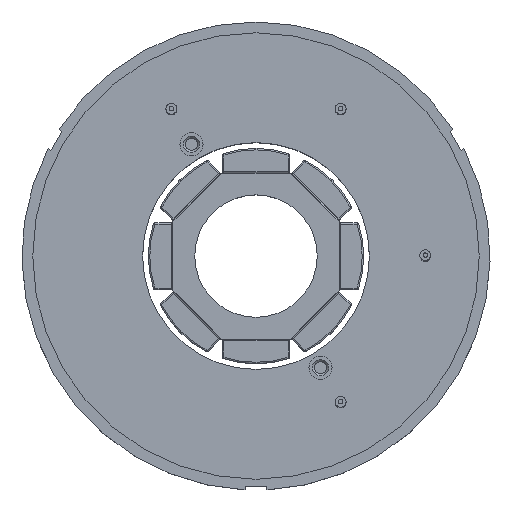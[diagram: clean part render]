
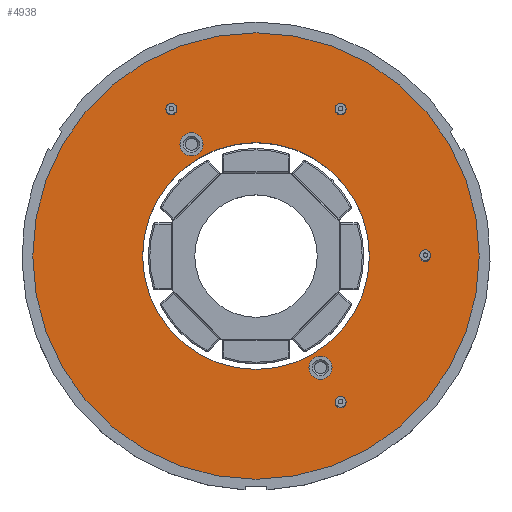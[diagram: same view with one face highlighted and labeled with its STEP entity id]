
A CAD part, top view. The second image highlights one B-rep face of the part: STEP entity #4938.
In plain terms, the highlighted planar face has unit normal (0, 0, 1).
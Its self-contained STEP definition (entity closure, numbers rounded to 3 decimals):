
#1021=PLANE('',#5487);
#1244=ORIENTED_EDGE('',*,*,#2537,.T.);
#1245=ORIENTED_EDGE('',*,*,#2539,.T.);
#1246=ORIENTED_EDGE('',*,*,#2540,.T.);
#1247=ORIENTED_EDGE('',*,*,#2541,.T.);
#1248=ORIENTED_EDGE('',*,*,#2542,.T.);
#1249=ORIENTED_EDGE('',*,*,#2543,.T.);
#1250=ORIENTED_EDGE('',*,*,#2544,.T.);
#1251=ORIENTED_EDGE('',*,*,#2545,.F.);
#2537=EDGE_CURVE('',#3393,#3393,#3989,.T.);
#2539=EDGE_CURVE('',#3395,#3395,#3991,.T.);
#2540=EDGE_CURVE('',#3396,#3396,#3992,.T.);
#2541=EDGE_CURVE('',#3397,#3397,#3993,.T.);
#2542=EDGE_CURVE('',#3398,#3398,#3994,.T.);
#2543=EDGE_CURVE('',#3399,#3399,#3995,.T.);
#2544=EDGE_CURVE('',#3400,#3400,#3996,.T.);
#2545=EDGE_CURVE('',#3401,#3401,#3997,.T.);
#3393=VERTEX_POINT('',#7272);
#3395=VERTEX_POINT('',#7277);
#3396=VERTEX_POINT('',#7280);
#3397=VERTEX_POINT('',#7282);
#3398=VERTEX_POINT('',#7284);
#3399=VERTEX_POINT('',#7286);
#3400=VERTEX_POINT('',#7288);
#3401=VERTEX_POINT('',#7290);
#3989=CIRCLE('',#5483,1.6);
#3991=CIRCLE('',#5486,1.6);
#3992=CIRCLE('',#5488,0.5);
#3993=CIRCLE('',#5489,0.5);
#3994=CIRCLE('',#5490,0.5);
#3995=CIRCLE('',#5491,0.5);
#3996=CIRCLE('',#5492,15.75);
#3997=CIRCLE('',#5493,31.);
#4230=EDGE_LOOP('',(#1244));
#4231=EDGE_LOOP('',(#1245));
#4232=EDGE_LOOP('',(#1246));
#4233=EDGE_LOOP('',(#1247));
#4234=EDGE_LOOP('',(#1248));
#4235=EDGE_LOOP('',(#1249));
#4236=EDGE_LOOP('',(#1250));
#4237=EDGE_LOOP('',(#1251));
#4587=FACE_BOUND('',#4230,.T.);
#4588=FACE_BOUND('',#4231,.T.);
#4589=FACE_BOUND('',#4232,.T.);
#4590=FACE_BOUND('',#4233,.T.);
#4591=FACE_BOUND('',#4234,.T.);
#4592=FACE_BOUND('',#4235,.T.);
#4593=FACE_BOUND('',#4236,.T.);
#4594=FACE_BOUND('',#4237,.T.);
#4938=ADVANCED_FACE('',(#4587,#4588,#4589,#4590,#4591,#4592,#4593,#4594),
#1021,.F.);
#5483=AXIS2_PLACEMENT_3D('',#7271,#5995,#5996);
#5486=AXIS2_PLACEMENT_3D('',#7276,#6001,#6002);
#5487=AXIS2_PLACEMENT_3D('',#7278,#6003,#6004);
#5488=AXIS2_PLACEMENT_3D('',#7279,#6005,#6006);
#5489=AXIS2_PLACEMENT_3D('',#7281,#6007,#6008);
#5490=AXIS2_PLACEMENT_3D('',#7283,#6009,#6010);
#5491=AXIS2_PLACEMENT_3D('',#7285,#6011,#6012);
#5492=AXIS2_PLACEMENT_3D('',#7287,#6013,#6014);
#5493=AXIS2_PLACEMENT_3D('',#7289,#6015,#6016);
#5995=DIRECTION('',(0.,0.,-1.));
#5996=DIRECTION('',(0.,-1.,0.));
#6001=DIRECTION('',(0.,0.,-1.));
#6002=DIRECTION('',(0.,-1.,0.));
#6003=DIRECTION('',(0.,0.,-1.));
#6004=DIRECTION('',(-1.,0.,0.));
#6005=DIRECTION('',(0.,0.,-1.));
#6006=DIRECTION('',(0.,-1.,0.));
#6007=DIRECTION('',(0.,0.,-1.));
#6008=DIRECTION('',(0.,-1.,0.));
#6009=DIRECTION('',(0.,0.,-1.));
#6010=DIRECTION('',(0.,-1.,0.));
#6011=DIRECTION('',(0.,0.,-1.));
#6012=DIRECTION('',(0.,-1.,0.));
#6013=DIRECTION('',(0.,0.,-1.));
#6014=DIRECTION('',(1.,0.,0.));
#6015=DIRECTION('',(0.,0.,-1.));
#6016=DIRECTION('',(1.,0.,0.));
#7271=CARTESIAN_POINT('',(8.955,-15.511,9.15));
#7272=CARTESIAN_POINT('',(8.955,-17.111,9.15));
#7276=CARTESIAN_POINT('',(-8.955,15.511,9.15));
#7277=CARTESIAN_POINT('',(-8.955,13.911,9.15));
#7278=CARTESIAN_POINT('',(0.,0.,9.15));
#7279=CARTESIAN_POINT('',(-11.75,20.352,9.15));
#7280=CARTESIAN_POINT('',(-11.75,19.852,9.15));
#7281=CARTESIAN_POINT('',(11.75,-20.352,9.15));
#7282=CARTESIAN_POINT('',(11.75,-20.852,9.15));
#7283=CARTESIAN_POINT('',(23.5,0.,9.15));
#7284=CARTESIAN_POINT('',(23.5,-0.5,9.15));
#7285=CARTESIAN_POINT('',(11.75,20.352,9.15));
#7286=CARTESIAN_POINT('',(11.75,19.852,9.15));
#7287=CARTESIAN_POINT('',(0.,0.,9.15));
#7288=CARTESIAN_POINT('',(15.75,0.,9.15));
#7289=CARTESIAN_POINT('',(0.,0.,9.15));
#7290=CARTESIAN_POINT('',(31.,0.,9.15));
